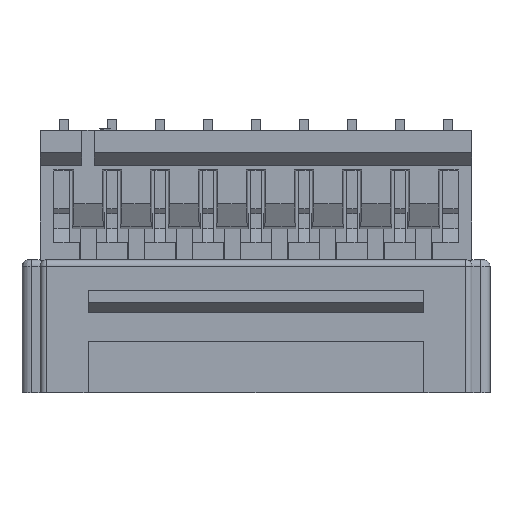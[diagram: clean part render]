
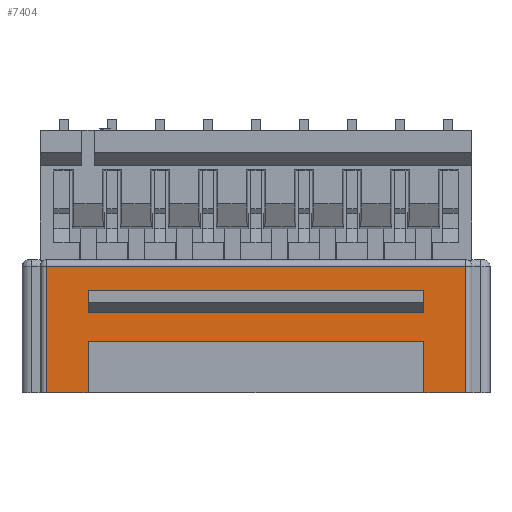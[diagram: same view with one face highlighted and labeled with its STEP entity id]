
A CAD part, top view. The second image highlights one B-rep face of the part: STEP entity #7404.
In plain terms, the highlighted planar face has unit normal (0, 0, 1).
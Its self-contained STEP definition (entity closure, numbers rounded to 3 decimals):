
#30 = CARTESIAN_POINT ( 'NONE',  ( 5.25, 2.5, 1.39 ) ) ;
#213 = ORIENTED_EDGE ( 'NONE', *, *, #13072, .T. ) ;
#219 = VECTOR ( 'NONE', #16094, 1000. ) ;
#220 = CARTESIAN_POINT ( 'NONE',  ( 5.25, 1.6, 1.39 ) ) ;
#696 = CARTESIAN_POINT ( 'NONE',  ( 5.25, 0., 1.39 ) ) ;
#879 = DIRECTION ( 'NONE',  ( 1., 0., 0. ) ) ;
#1261 = LINE ( 'NONE', #1392, #13339 ) ;
#1392 = CARTESIAN_POINT ( 'NONE',  ( -5.25, 3.2, 1.39 ) ) ;
#1685 = CARTESIAN_POINT ( 'NONE',  ( -6.55, 0., 1.39 ) ) ;
#2137 = CARTESIAN_POINT ( 'NONE',  ( 5.25, 3.2, 1.39 ) ) ;
#2576 = LINE ( 'NONE', #18309, #15783 ) ;
#3094 = EDGE_CURVE ( 'NONE', #3182, #13333, #3640, .T. ) ;
#3182 = VERTEX_POINT ( 'NONE', #696 ) ;
#3489 = DIRECTION ( 'NONE',  ( 0., -1., 0. ) ) ;
#3640 = LINE ( 'NONE', #11620, #7880 ) ;
#3963 = DIRECTION ( 'NONE',  ( 1., 0., 0. ) ) ;
#3971 = VERTEX_POINT ( 'NONE', #14824 ) ;
#4021 = ORIENTED_EDGE ( 'NONE', *, *, #24331, .T. ) ;
#4600 = VECTOR ( 'NONE', #5149, 1000. ) ;
#4611 = LINE ( 'NONE', #22839, #7536 ) ;
#4635 = CARTESIAN_POINT ( 'NONE',  ( -6.55, 0., 1.39 ) ) ;
#4860 = DIRECTION ( 'NONE',  ( 1., 0., 0. ) ) ;
#5149 = DIRECTION ( 'NONE',  ( 0., 1., 0. ) ) ;
#5491 = EDGE_CURVE ( 'NONE', #13333, #7834, #23963, .T. ) ;
#5510 = EDGE_CURVE ( 'NONE', #7482, #8453, #8088, .T. ) ;
#5749 = EDGE_LOOP ( 'NONE', ( #10313, #16398, #4021, #17391, #13124, #17502, #7529, #9284 ) ) ;
#6698 = VERTEX_POINT ( 'NONE', #24263 ) ;
#6837 = ORIENTED_EDGE ( 'NONE', *, *, #24461, .T. ) ;
#6913 = VECTOR ( 'NONE', #17927, 1000. ) ;
#7043 = EDGE_CURVE ( 'NONE', #12630, #18970, #2576, .T. ) ;
#7404 = ADVANCED_FACE ( 'NONE', ( #17082, #8819 ), #21152, .T. ) ;
#7482 = VERTEX_POINT ( 'NONE', #23117 ) ;
#7529 = ORIENTED_EDGE ( 'NONE', *, *, #7043, .T. ) ;
#7536 = VECTOR ( 'NONE', #4860, 1000. ) ;
#7834 = VERTEX_POINT ( 'NONE', #12408 ) ;
#7880 = VECTOR ( 'NONE', #25799, 1000. ) ;
#8088 = LINE ( 'NONE', #1685, #219 ) ;
#8333 = EDGE_CURVE ( 'NONE', #3182, #12630, #21286, .T. ) ;
#8453 = VERTEX_POINT ( 'NONE', #11703 ) ;
#8730 = VECTOR ( 'NONE', #879, 1000. ) ;
#8743 = VECTOR ( 'NONE', #3963, 1000. ) ;
#8819 = FACE_BOUND ( 'NONE', #20388, .T. ) ;
#9067 = CARTESIAN_POINT ( 'NONE',  ( 6.55, 3.95, 1.39 ) ) ;
#9284 = ORIENTED_EDGE ( 'NONE', *, *, #24572, .F. ) ;
#9456 = LINE ( 'NONE', #15510, #19041 ) ;
#9722 = CARTESIAN_POINT ( 'NONE',  ( -5.25, 2.5, 1.39 ) ) ;
#9810 = EDGE_CURVE ( 'NONE', #7482, #3971, #13059, .T. ) ;
#10313 = ORIENTED_EDGE ( 'NONE', *, *, #5510, .F. ) ;
#10496 = CARTESIAN_POINT ( 'NONE',  ( 5.25, 1.6, 1.39 ) ) ;
#10917 = DIRECTION ( 'NONE',  ( 0., 0., 1. ) ) ;
#11620 = CARTESIAN_POINT ( 'NONE',  ( 5.25, 0., 1.39 ) ) ;
#11703 = CARTESIAN_POINT ( 'NONE',  ( -6.55, 3.95, 1.39 ) ) ;
#11847 = CARTESIAN_POINT ( 'NONE',  ( 6.55, 0., 1.39 ) ) ;
#12085 = LINE ( 'NONE', #2137, #12982 ) ;
#12408 = CARTESIAN_POINT ( 'NONE',  ( -5.25, 1.6, 1.39 ) ) ;
#12630 = VERTEX_POINT ( 'NONE', #11847 ) ;
#12982 = VECTOR ( 'NONE', #22065, 1000. ) ;
#13024 = CARTESIAN_POINT ( 'NONE',  ( -5.25, 0., 1.39 ) ) ;
#13059 = LINE ( 'NONE', #21073, #8730 ) ;
#13072 = EDGE_CURVE ( 'NONE', #23490, #25134, #9456, .T. ) ;
#13116 = VERTEX_POINT ( 'NONE', #30 ) ;
#13124 = ORIENTED_EDGE ( 'NONE', *, *, #3094, .F. ) ;
#13333 = VERTEX_POINT ( 'NONE', #10496 ) ;
#13339 = VECTOR ( 'NONE', #3489, 1000. ) ;
#13677 = LINE ( 'NONE', #9722, #8743 ) ;
#14824 = CARTESIAN_POINT ( 'NONE',  ( -5.25, 0., 1.39 ) ) ;
#15051 = EDGE_CURVE ( 'NONE', #23490, #6698, #1261, .T. ) ;
#15244 = DIRECTION ( 'NONE',  ( 1., 0., 0. ) ) ;
#15510 = CARTESIAN_POINT ( 'NONE',  ( -5.25, 3.2, 1.39 ) ) ;
#15783 = VECTOR ( 'NONE', #24479, 1000. ) ;
#16094 = DIRECTION ( 'NONE',  ( 0., 1., 0. ) ) ;
#16398 = ORIENTED_EDGE ( 'NONE', *, *, #9810, .T. ) ;
#16991 = CARTESIAN_POINT ( 'NONE',  ( 5.25, 3.2, 1.39 ) ) ;
#17082 = FACE_OUTER_BOUND ( 'NONE', #5749, .T. ) ;
#17216 = LINE ( 'NONE', #13024, #4600 ) ;
#17391 = ORIENTED_EDGE ( 'NONE', *, *, #5491, .F. ) ;
#17480 = DIRECTION ( 'NONE',  ( 1., 0., 0. ) ) ;
#17502 = ORIENTED_EDGE ( 'NONE', *, *, #8333, .T. ) ;
#17927 = DIRECTION ( 'NONE',  ( -1., 0., 0. ) ) ;
#18031 = AXIS2_PLACEMENT_3D ( 'NONE', #4635, #10917, #22864 ) ;
#18309 = CARTESIAN_POINT ( 'NONE',  ( 6.55, 0., 1.39 ) ) ;
#18970 = VERTEX_POINT ( 'NONE', #9067 ) ;
#19041 = VECTOR ( 'NONE', #15244, 1000. ) ;
#20388 = EDGE_LOOP ( 'NONE', ( #24165, #23848, #213, #6837 ) ) ;
#20895 = CARTESIAN_POINT ( 'NONE',  ( -5.25, 3.2, 1.39 ) ) ;
#21073 = CARTESIAN_POINT ( 'NONE',  ( -6.55, 0., 1.39 ) ) ;
#21152 = PLANE ( 'NONE',  #18031 ) ;
#21286 = LINE ( 'NONE', #23645, #22684 ) ;
#22065 = DIRECTION ( 'NONE',  ( 0., -1., 0. ) ) ;
#22684 = VECTOR ( 'NONE', #17480, 1000. ) ;
#22839 = CARTESIAN_POINT ( 'NONE',  ( -6.55, 3.95, 1.39 ) ) ;
#22864 = DIRECTION ( 'NONE',  ( 1., 0., 0. ) ) ;
#23117 = CARTESIAN_POINT ( 'NONE',  ( -6.55, 0., 1.39 ) ) ;
#23490 = VERTEX_POINT ( 'NONE', #20895 ) ;
#23593 = EDGE_CURVE ( 'NONE', #6698, #13116, #13677, .T. ) ;
#23645 = CARTESIAN_POINT ( 'NONE',  ( 5.25, 0., 1.39 ) ) ;
#23848 = ORIENTED_EDGE ( 'NONE', *, *, #15051, .F. ) ;
#23963 = LINE ( 'NONE', #220, #6913 ) ;
#24165 = ORIENTED_EDGE ( 'NONE', *, *, #23593, .F. ) ;
#24263 = CARTESIAN_POINT ( 'NONE',  ( -5.25, 2.5, 1.39 ) ) ;
#24331 = EDGE_CURVE ( 'NONE', #3971, #7834, #17216, .T. ) ;
#24461 = EDGE_CURVE ( 'NONE', #25134, #13116, #12085, .T. ) ;
#24479 = DIRECTION ( 'NONE',  ( 0., 1., 0. ) ) ;
#24572 = EDGE_CURVE ( 'NONE', #8453, #18970, #4611, .T. ) ;
#25134 = VERTEX_POINT ( 'NONE', #16991 ) ;
#25799 = DIRECTION ( 'NONE',  ( 0., 1., 0. ) ) ;
